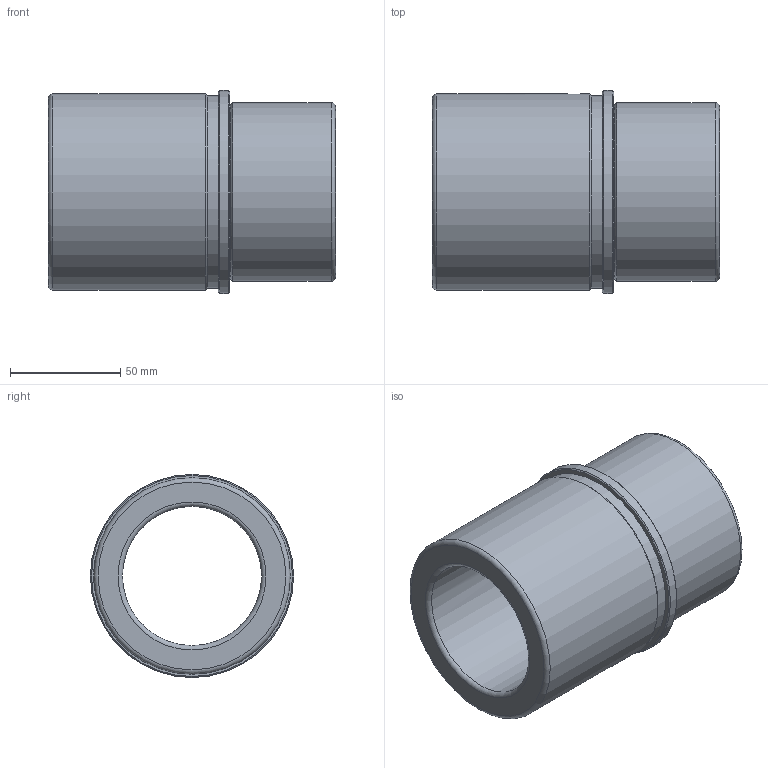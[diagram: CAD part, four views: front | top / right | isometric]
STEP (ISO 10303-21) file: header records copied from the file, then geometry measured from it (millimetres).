
FILE_DESCRIPTION( ( 'STEP AP214' ), '1' );
FILE_NAME( 'p:/temp/worker_27/temp/exporttempdir_4504_247_68Dbf/format_2/WZ - 4055 63 x 130.stp', '2020-12-04T19:48:16', ( 'License CC BY-ND 4.0' ), ( 'CADENAS' ), ' ', 'PARTsolutions', ' ' );
FILE_SCHEMA( ( 'AUTOMOTIVE_DESIGN { 1 0 10303 214 1 1 1 1 }' ) );
Length unit declared in the file: millimetre
Products named in the file (1): _WZ - 4055 63 x 130
Bounding box: 130 x 92 x 92 mm (x, y, z)
Volume: 350542.3 mm3; surface area: 68306.1 mm2
Topology: 1 solids, 1 shells, 21 faces, 38 edges, 22 vertices
Faces by surface type: cylinder 7, cone 5, plane 5, torus 4
Full cylindrical faces by diameter (mm): 8.376 x1, 63 x1, 79 x1, 81 x1, 87 x1, 89 x1, 92 x1
Entity records: 750 total; most frequent: CARTESIAN_POINT 196, DIRECTION 84, EDGE_LOOP 44, ORIENTED_EDGE 44, AXIS2_PLACEMENT_3D 42, FACE_OUTER_BOUND 32, EDGE_CURVE 22, VERTEX_POINT 22
